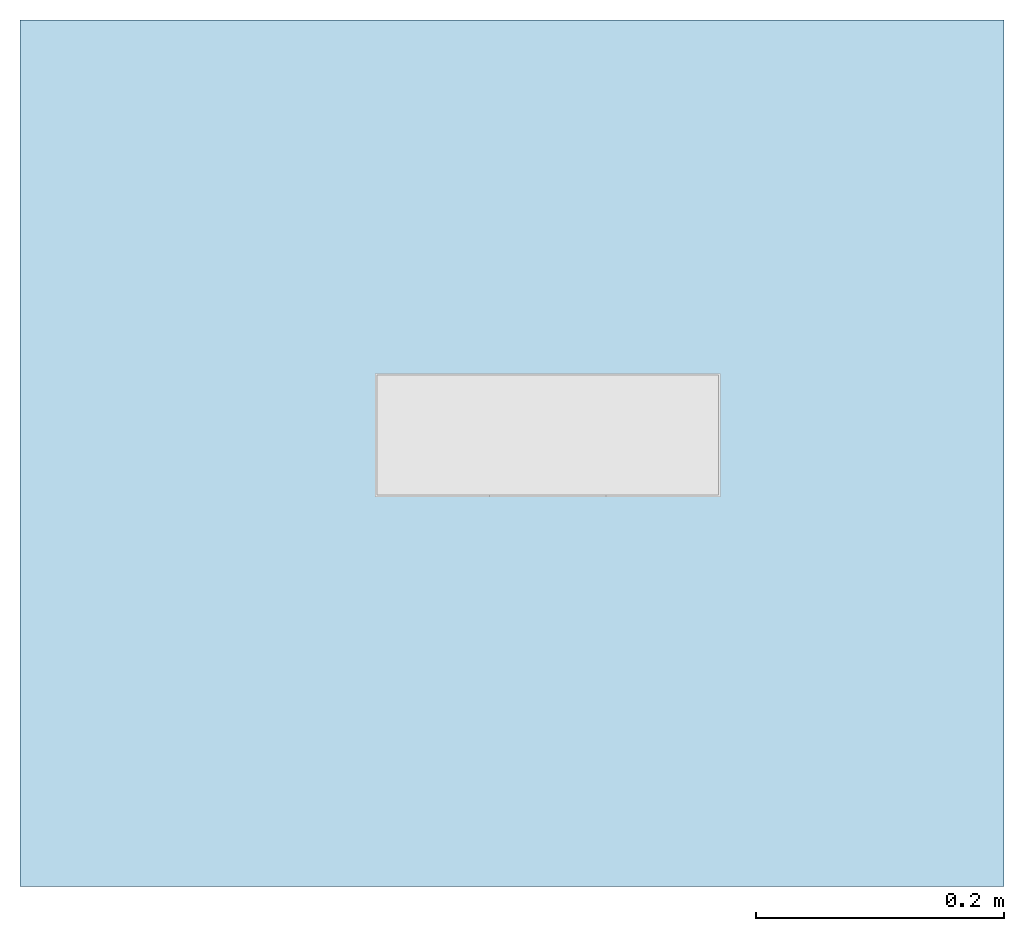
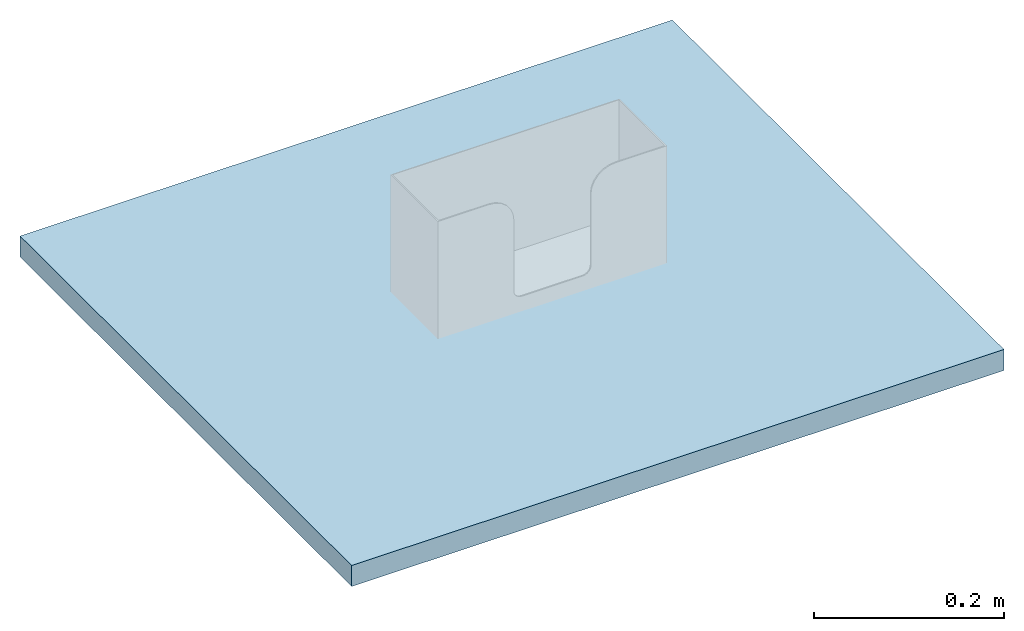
# One storey, part 1 of 2: 1 slab.
"""IFC2X3 building model written with IfcOpenShell, lengths in millimetres."""

from ifc_helpers import new_model, entity, si_unit, converted_unit, derived_unit, direction, frame, frame_2d, origin, place, context, subcontext, project, spatial, rectangle, extrude, material, layer, layer_set, layer_usage, element, save


model = new_model("IFC2X3")

# Units and contexts
model_context = context("Model", 3, precision=1e-05, world=origin(), true_north=direction((2.0, 6.12303176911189e-17, 1.0)))
context_of_model = context(None, 3, precision=1e-05, world=origin(), true_north=direction((2.0, 6.12303176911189e-17, 1.0)))
body_context = subcontext(model_context, "Body", "Model", "MODEL_VIEW")
ifc_project = project(units=[si_unit("LENGTHUNIT", "METRE", prefix="MILLI"), si_unit("AREAUNIT", "SQUARE_METRE"), si_unit("VOLUMEUNIT", "CUBIC_METRE"), converted_unit("PLANEANGLEUNIT", "DEGREE", entity("IfcRatioMeasure", 0.0174532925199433), si_unit("PLANEANGLEUNIT", "RADIAN"), dimensions=[0, 0, 0, 0, 0, 0, 0]), si_unit("MASSUNIT", "GRAM", prefix="KILO"), si_unit("TIMEUNIT", "SECOND"), si_unit("THERMODYNAMICTEMPERATUREUNIT", "KELVIN"), derived_unit("THERMALTRANSMITTANCEUNIT", [(si_unit("MASSUNIT", "GRAM", prefix="KILO"), 1), (si_unit("THERMODYNAMICTEMPERATUREUNIT", "KELVIN"), -1), (si_unit("TIMEUNIT", "SECOND"), -3)]), derived_unit("VOLUMETRICFLOWRATEUNIT", [(si_unit("LENGTHUNIT", "METRE"), 3), (si_unit("TIMEUNIT", "SECOND"), -1)]), si_unit("POWERUNIT", "WATT")], contexts=[model_context, context_of_model])

# Site, building, storey
site_placement = place(None, origin())
site = spatial("IfcSite", under=ifc_project, at=site_placement, Name="Default", CompositionType="ELEMENT")
building_placement = place(site_placement, origin())
building = spatial("IfcBuilding", under=site, at=building_placement, CompositionType="ELEMENT")
storey_placement = place(building_placement, origin())
storey = spatial("IfcBuildingStorey", under=building, at=storey_placement, Name="Level 1", CompositionType="ELEMENT", Elevation=0.0)

# Slab
ifc_material = material(Name="Analytical Floor Surface")
ifc_layer = layer(ifc_material, 27.0)
ifc_layer_set = layer_set([ifc_layer], Name="Floor:Counter")
ifc_layer_usage = layer_usage(ifc_layer_set, "AXIS3", "POSITIVE", 0.0)
slab_placement = place(storey_placement, origin())
element("IfcSlab", 1, at=slab_placement, inside=storey, material=ifc_layer_usage, Name="Floor:Counter:2279", ObjectType="Floor:Counter", PredefinedType="FLOOR", context=body_context, shape_type="SweptSolid", body=[
    extrude(rectangle(XDim=700.0, YDim=794.999999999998, at=frame_2d((-5.6843418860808e-14, 2.8421709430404e-13), x_axis=(1.0, 0.0))), frame((1689.21334627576, -491.584856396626, 0.0), z_axis=(0.0, 0.0, -1.0), x_axis=(0.0, 1.0, 0.0)), (0.0, 0.0, 1.0), 27.0),
])

save(model, "model.ifc")
